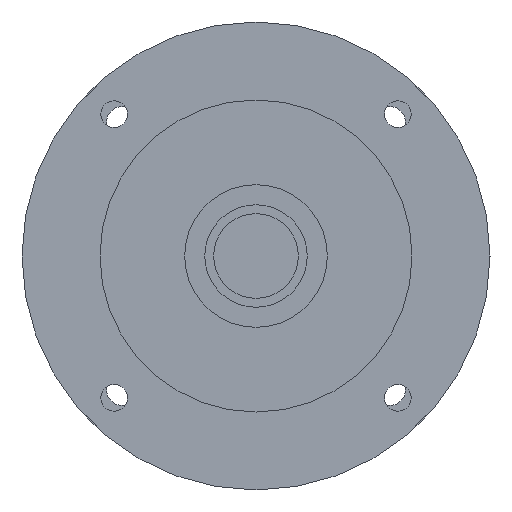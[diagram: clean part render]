
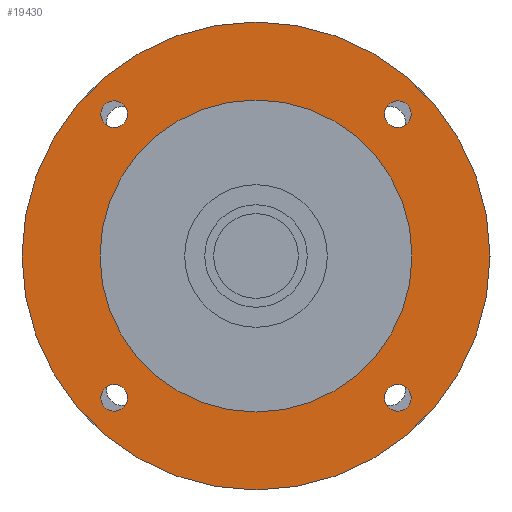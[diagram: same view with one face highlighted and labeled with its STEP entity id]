
A CAD part, left-side view. The second image highlights one B-rep face of the part: STEP entity #19430.
In plain terms, the highlighted planar face has unit normal (-1, 0, 0) as drawn and (0, 0, -1) by its records, which use the part's own axes.
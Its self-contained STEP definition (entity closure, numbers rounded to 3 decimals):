
#18270=CARTESIAN_POINT('',(-31.82,-28.82,-49.));
#18280=VERTEX_POINT('',#18270);
#18310=CARTESIAN_POINT('',(-31.82,-31.82,-49.));
#18320=DIRECTION('',(0.,0.,-1.));
#18330=DIRECTION('',(0.,-1.,0.));
#18340=AXIS2_PLACEMENT_3D('',#18310,#18320,#18330);
#18350=CIRCLE('',#18340,3.);
#18360=CARTESIAN_POINT('',(-31.82,-34.82,-49.));
#18370=VERTEX_POINT('',#18360);
#18380=EDGE_CURVE('',#18370,#18280,#18350,.T.);
#18500=CARTESIAN_POINT('',(0.,0.,
-49.));
#18510=DIRECTION('',(0.,0.,-1.));
#18520=DIRECTION('',(1.,0.,0.));
#18530=AXIS2_PLACEMENT_3D('',#18500,#18510,#18520);
#18540=PLANE('',#18530);
#18550=CARTESIAN_POINT('',(31.82,-31.82,-49.));
#18560=DIRECTION('',(0.,0.,-1.));
#18570=DIRECTION('',(1.,0.,0.));
#18580=AXIS2_PLACEMENT_3D('',#18550,#18560,#18570);
#18590=CIRCLE('',#18580,3.);
#18600=CARTESIAN_POINT('',(34.82,-31.82,-49.));
#18610=VERTEX_POINT('',#18600);
#18620=CARTESIAN_POINT('',(28.82,-31.82,-49.));
#18630=VERTEX_POINT('',#18620);
#18640=EDGE_CURVE('',#18610,#18630,#18590,.T.);
#18650=ORIENTED_EDGE('',*,*,#18640,.F.);
#18660=EDGE_CURVE('',#18630,#18610,#18590,.T.);
#18670=ORIENTED_EDGE('',*,*,#18660,.F.);
#18680=EDGE_LOOP('',(#18670,#18650));
#18690=FACE_BOUND('',#18680,.T.);
#18700=CARTESIAN_POINT('',(0.,0.,
-49.));
#18710=DIRECTION('',(0.,0.,-1.));
#18720=DIRECTION('',(0.,-1.,0.));
#18730=AXIS2_PLACEMENT_3D('',#18700,#18710,#18720);
#18740=CIRCLE('',#18730,52.5);
#18750=CARTESIAN_POINT('',(-52.5,0.,-49.));
#18760=VERTEX_POINT('',#18750);
#18770=CARTESIAN_POINT('',(52.5,0.,-49.));
#18780=VERTEX_POINT('',#18770);
#18790=EDGE_CURVE('',#18760,#18780,#18740,.T.);
#18800=ORIENTED_EDGE('',*,*,#18790,.T.);
#18810=CARTESIAN_POINT('',(0.,-52.5,-49.));
#18820=VERTEX_POINT('',#18810);
#18830=EDGE_CURVE('',#18820,#18760,#18740,.T.);
#18840=ORIENTED_EDGE('',*,*,#18830,.T.);
#18850=EDGE_CURVE('',#18780,#18820,#18740,.T.);
#18860=ORIENTED_EDGE('',*,*,#18850,.T.);
#18870=EDGE_LOOP('',(#18860,#18840,#18800));
#18880=FACE_OUTER_BOUND('',#18870,.T.);
#18890=CARTESIAN_POINT('',(31.82,31.82,-49.));
#18900=DIRECTION('',(0.,0.,-1.));
#18910=DIRECTION('',(0.,1.,0.));
#18920=AXIS2_PLACEMENT_3D('',#18890,#18900,#18910);
#18930=CIRCLE('',#18920,3.);
#18940=CARTESIAN_POINT('',(31.82,34.82,-49.));
#18950=VERTEX_POINT('',#18940);
#18960=CARTESIAN_POINT('',(31.82,28.82,-49.));
#18970=VERTEX_POINT('',#18960);
#18980=EDGE_CURVE('',#18950,#18970,#18930,.T.);
#18990=ORIENTED_EDGE('',*,*,#18980,.F.);
#19000=EDGE_CURVE('',#18970,#18950,#18930,.T.);
#19010=ORIENTED_EDGE('',*,*,#19000,.F.);
#19020=EDGE_LOOP('',(#19010,#18990));
#19030=FACE_BOUND('',#19020,.T.);
#19040=CARTESIAN_POINT('',(-31.82,31.82,-49.));
#19050=DIRECTION('',(0.,0.,-1.));
#19060=DIRECTION('',(-1.,0.,0.));
#19070=AXIS2_PLACEMENT_3D('',#19040,#19050,#19060);
#19080=CIRCLE('',#19070,3.);
#19090=CARTESIAN_POINT('',(-34.82,31.82,-49.));
#19100=VERTEX_POINT('',#19090);
#19110=CARTESIAN_POINT('',(-28.82,31.82,-49.));
#19120=VERTEX_POINT('',#19110);
#19130=EDGE_CURVE('',#19100,#19120,#19080,.T.);
#19140=ORIENTED_EDGE('',*,*,#19130,.F.);
#19150=EDGE_CURVE('',#19120,#19100,#19080,.T.);
#19160=ORIENTED_EDGE('',*,*,#19150,.F.);
#19170=EDGE_LOOP('',(#19160,#19140));
#19180=FACE_BOUND('',#19170,.T.);
#19190=ORIENTED_EDGE('',*,*,#18380,.F.);
#19200=EDGE_CURVE('',#18280,#18370,#18350,.T.);
#19210=ORIENTED_EDGE('',*,*,#19200,.F.);
#19220=EDGE_LOOP('',(#19210,#19190));
#19230=FACE_BOUND('',#19220,.T.);
#19240=CARTESIAN_POINT('',(0.,0.,
-49.));
#19250=DIRECTION('',(0.,0.,1.));
#19260=DIRECTION('',(0.,1.,0.));
#19270=AXIS2_PLACEMENT_3D('',#19240,#19250,#19260);
#19280=CIRCLE('',#19270,35.);
#19290=CARTESIAN_POINT('',(-35.,0.,-49.));
#19300=VERTEX_POINT('',#19290);
#19310=CARTESIAN_POINT('',(35.,0.,-49.));
#19320=VERTEX_POINT('',#19310);
#19330=EDGE_CURVE('',#19300,#19320,#19280,.T.);
#19340=ORIENTED_EDGE('',*,*,#19330,.T.);
#19350=CARTESIAN_POINT('',(0.,35.,-49.));
#19360=VERTEX_POINT('',#19350);
#19370=EDGE_CURVE('',#19360,#19300,#19280,.T.);
#19380=ORIENTED_EDGE('',*,*,#19370,.T.);
#19390=EDGE_CURVE('',#19320,#19360,#19280,.T.);
#19400=ORIENTED_EDGE('',*,*,#19390,.T.);
#19410=EDGE_LOOP('',(#19400,#19380,#19340));
#19420=FACE_BOUND('',#19410,.T.);
#19430=ADVANCED_FACE('',(#18690,#18880,#19030,#19180,#19230,#19420),
#18540,.T.);
